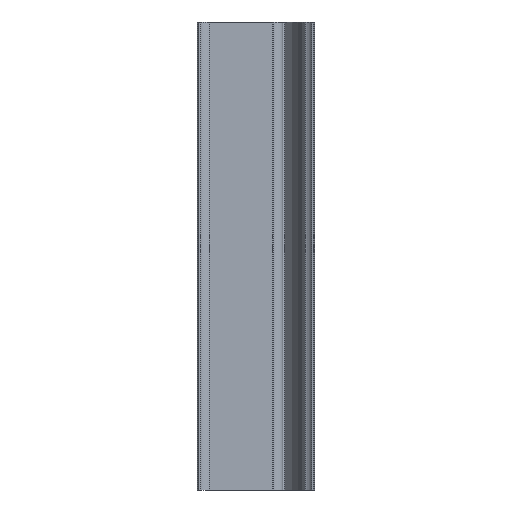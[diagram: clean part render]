
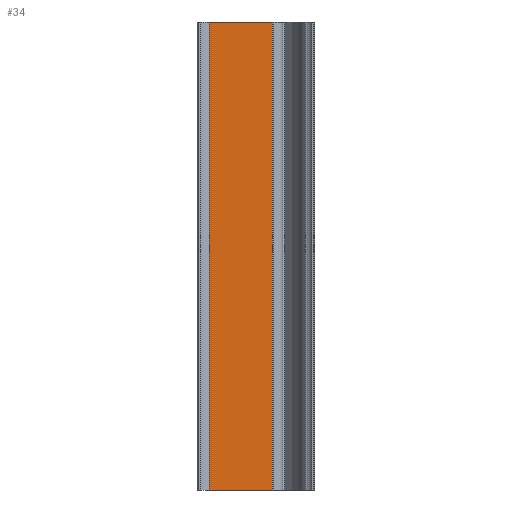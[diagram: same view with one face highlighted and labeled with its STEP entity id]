
A CAD part, front view. The second image highlights one B-rep face of the part: STEP entity #34.
In plain terms, the highlighted planar face has unit normal (0, -1, 0).
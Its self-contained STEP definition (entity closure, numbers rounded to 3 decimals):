
#22 = CARTESIAN_POINT ( 'NONE',  ( -10., 12.7, 100. ) ) ;
#34 = ADVANCED_FACE ( 'NONE', ( #841 ), #989, .F. ) ;
#57 = CARTESIAN_POINT ( 'NONE',  ( 3.5, 12.7, 0. ) ) ;
#93 = EDGE_LOOP ( 'NONE', ( #647, #170, #150, #927 ) ) ;
#111 = CARTESIAN_POINT ( 'NONE',  ( 3.5, 12.7, 100. ) ) ;
#150 = ORIENTED_EDGE ( 'NONE', *, *, #1016, .F. ) ;
#170 = ORIENTED_EDGE ( 'NONE', *, *, #244, .F. ) ;
#174 = LINE ( 'NONE', #57, #1086 ) ;
#180 = DIRECTION ( 'NONE',  ( 0., 1., 0. ) ) ;
#220 = EDGE_CURVE ( 'NONE', #990, #866, #174, .T. ) ;
#229 = CARTESIAN_POINT ( 'NONE',  ( -10., 12.7, 0. ) ) ;
#244 = EDGE_CURVE ( 'NONE', #692, #401, #625, .T. ) ;
#257 = CARTESIAN_POINT ( 'NONE',  ( -10., 12.7, 0. ) ) ;
#322 = EDGE_CURVE ( 'NONE', #866, #401, #719, .T. ) ;
#331 = VECTOR ( 'NONE', #948, 1000. ) ;
#401 = VERTEX_POINT ( 'NONE', #22 ) ;
#459 = DIRECTION ( 'NONE',  ( 0., 0., 1. ) ) ;
#507 = DIRECTION ( 'NONE',  ( -1., 0., 0. ) ) ;
#625 = LINE ( 'NONE', #229, #827 ) ;
#647 = ORIENTED_EDGE ( 'NONE', *, *, #322, .T. ) ;
#692 = VERTEX_POINT ( 'NONE', #257 ) ;
#711 = VECTOR ( 'NONE', #507, 1000. ) ;
#719 = LINE ( 'NONE', #1105, #331 ) ;
#760 = DIRECTION ( 'NONE',  ( 0., 0., 1. ) ) ;
#798 = CARTESIAN_POINT ( 'NONE',  ( -10., 12.7, 0. ) ) ;
#827 = VECTOR ( 'NONE', #944, 1000. ) ;
#841 = FACE_OUTER_BOUND ( 'NONE', #93, .T. ) ;
#850 = CARTESIAN_POINT ( 'NONE',  ( -10., 12.7, 0. ) ) ;
#866 = VERTEX_POINT ( 'NONE', #111 ) ;
#890 = AXIS2_PLACEMENT_3D ( 'NONE', #798, #180, #459 ) ;
#927 = ORIENTED_EDGE ( 'NONE', *, *, #220, .T. ) ;
#939 = CARTESIAN_POINT ( 'NONE',  ( 3.5, 12.7, 0. ) ) ;
#944 = DIRECTION ( 'NONE',  ( 0., 0., 1. ) ) ;
#948 = DIRECTION ( 'NONE',  ( -1., 0., 0. ) ) ;
#989 = PLANE ( 'NONE',  #890 ) ;
#990 = VERTEX_POINT ( 'NONE', #939 ) ;
#1012 = LINE ( 'NONE', #850, #711 ) ;
#1016 = EDGE_CURVE ( 'NONE', #990, #692, #1012, .T. ) ;
#1086 = VECTOR ( 'NONE', #760, 1000. ) ;
#1105 = CARTESIAN_POINT ( 'NONE',  ( -10., 12.7, 100. ) ) ;
